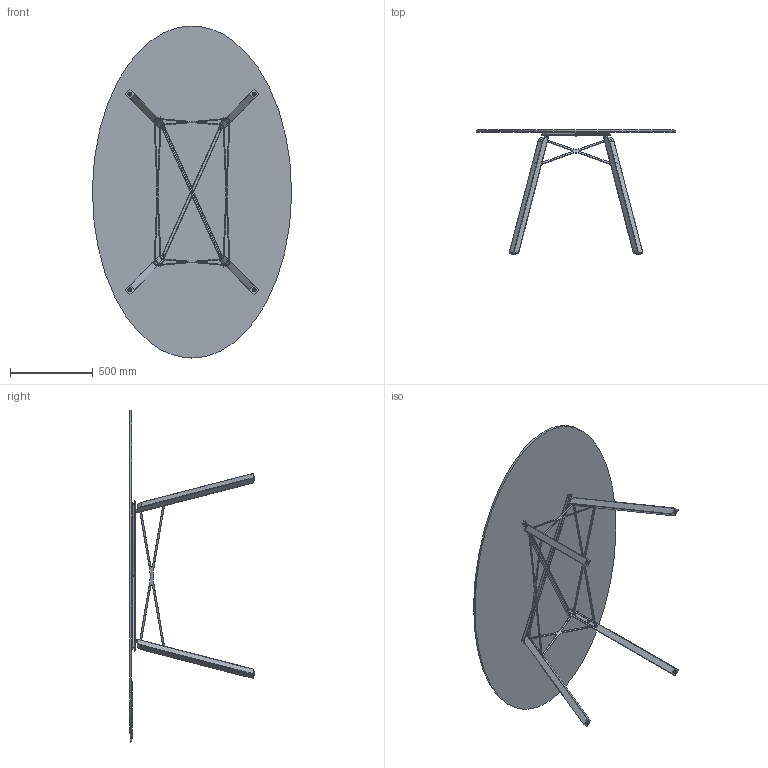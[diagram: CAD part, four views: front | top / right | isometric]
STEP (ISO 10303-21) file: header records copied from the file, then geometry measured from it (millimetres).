
FILE_DESCRIPTION (( 'STEP AP203' ), '1' );
FILE_NAME ('M montaj dikdörtgen iroko masa.STEP', '2014-07-17T11:03:21', ( '' ), ( '' ), 'SwSTEP 2.0', 'SolidWorks 2011', '' );
FILE_SCHEMA (( 'CONFIG_CONTROL_DESIGN' ));
Length unit declared in the file: millimetre
Products named in the file (10): M montaj dikdörtgen iroko masa; vida; 2000x1200 elips; iroko masa ayaðý; M profil dik 1; M profil dik 2; M ara sac uzun; M ara sac; M kulak; M tapa
Assembly tree (36 placements, depth 2):
  M montaj dikdörtgen iroko masa
    vida  x17
    M tapa  x4
    M profil dik 2
    iroko masa ayaðý  x4
    M ara sac uzun  x2
    M profil dik 1
    M kulak  x4
    M ara sac  x2
    2000x1200 elips
Bounding box: 1199.74 x 747.56 x 2000 mm (x, y, z)
Volume: 27694990.1 mm3; surface area: 4787017.1 mm2
Topology: 36 solids, 36 shells, 1108 faces, 2718 edges, 1720 vertices
Faces by surface type: plane 582, cylinder 413, torus 50, cone 32, sphere 17, bspline 14
Entity records: 14699 total; most frequent: CARTESIAN_POINT 2755, DIRECTION 2173, ORIENTED_EDGE 2082, EDGE_CURVE 1041, AXIS2_PLACEMENT_3D 738, VECTOR 697, LINE 697, VERTEX_POINT 648
